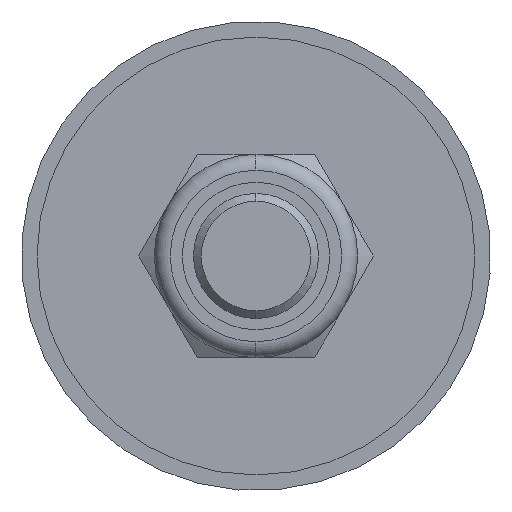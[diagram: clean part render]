
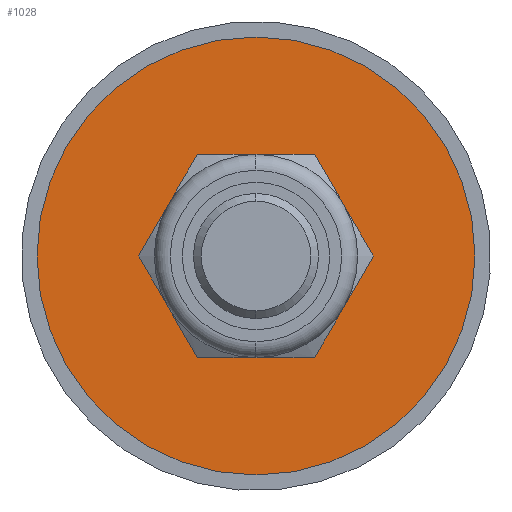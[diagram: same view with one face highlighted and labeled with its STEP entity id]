
A CAD part, left-side view. The second image highlights one B-rep face of the part: STEP entity #1028.
In plain terms, the highlighted planar face has unit normal (-1, 0, 0).
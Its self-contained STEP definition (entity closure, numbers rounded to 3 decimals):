
#980 = VERTEX_POINT ( 'NONE', #3213 ) ;
#1018 = EDGE_LOOP ( 'NONE', ( #1182, #1181 ) ) ;
#1020 = EDGE_CURVE ( 'NONE', #1277, #1271, #3253, .T. ) ;
#1028 = ADVANCED_FACE ( 'NONE', ( #3252, #3312 ), #3251, .F. ) ;
#1173 = EDGE_CURVE ( 'NONE', #980, #1179, #3469, .T. ) ;
#1179 = VERTEX_POINT ( 'NONE', #3501 ) ;
#1181 = ORIENTED_EDGE ( 'NONE', *, *, #1173, .F. ) ;
#1182 = ORIENTED_EDGE ( 'NONE', *, *, #1251, .F. ) ;
#1183 = EDGE_LOOP ( 'NONE', ( #1192, #1188 ) ) ;
#1188 = ORIENTED_EDGE ( 'NONE', *, *, #1020, .T. ) ;
#1192 = ORIENTED_EDGE ( 'NONE', *, *, #1270, .T. ) ;
#1251 = EDGE_CURVE ( 'NONE', #1179, #980, #3679, .T. ) ;
#1270 = EDGE_CURVE ( 'NONE', #1271, #1277, #3701, .T. ) ;
#1271 = VERTEX_POINT ( 'NONE', #3702 ) ;
#1277 = VERTEX_POINT ( 'NONE', #3691 ) ;
#3213 = CARTESIAN_POINT ( 'NONE',  ( -3., 0., -4.5 ) ) ;
#3248 = DIRECTION ( 'NONE',  ( 0., 0., 1. ) ) ;
#3249 = DIRECTION ( 'NONE',  ( -1., 0., 0. ) ) ;
#3250 = AXIS2_PLACEMENT_3D ( 'NONE', #3259, #3249, #3248 ) ;
#3251 = PLANE ( 'NONE',  #3309 ) ;
#3252 = FACE_BOUND ( 'NONE', #1018, .T. ) ;
#3253 = CIRCLE ( 'NONE', #3250, 14. ) ;
#3259 = CARTESIAN_POINT ( 'NONE',  ( -3., 0., 0. ) ) ;
#3260 = DIRECTION ( 'NONE',  ( 0., 0., -1. ) ) ;
#3265 = CARTESIAN_POINT ( 'NONE',  ( -3., 14., 0. ) ) ;
#3267 = DIRECTION ( 'NONE',  ( 1., 0., 0. ) ) ;
#3309 = AXIS2_PLACEMENT_3D ( 'NONE', #3265, #3267, #3260 ) ;
#3312 = FACE_OUTER_BOUND ( 'NONE', #1183, .T. ) ;
#3469 = CIRCLE ( 'NONE', #3511, 4.5 ) ;
#3501 = CARTESIAN_POINT ( 'NONE',  ( -3., 0., 4.5 ) ) ;
#3508 = DIRECTION ( 'NONE',  ( 0., 0., 1. ) ) ;
#3509 = DIRECTION ( 'NONE',  ( -1., 0., 0. ) ) ;
#3510 = CARTESIAN_POINT ( 'NONE',  ( -3., 0., 0. ) ) ;
#3511 = AXIS2_PLACEMENT_3D ( 'NONE', #3510, #3509, #3508 ) ;
#3670 = DIRECTION ( 'NONE',  ( 0., 0., 1. ) ) ;
#3671 = DIRECTION ( 'NONE',  ( -1., 0., 0. ) ) ;
#3672 = CARTESIAN_POINT ( 'NONE',  ( -3., 0., 0. ) ) ;
#3674 = AXIS2_PLACEMENT_3D ( 'NONE', #3672, #3671, #3670 ) ;
#3679 = CIRCLE ( 'NONE', #3674, 4.5 ) ;
#3691 = CARTESIAN_POINT ( 'NONE',  ( -3., 0., -14. ) ) ;
#3693 = DIRECTION ( 'NONE',  ( 0., 0., 1. ) ) ;
#3694 = DIRECTION ( 'NONE',  ( -1., 0., 0. ) ) ;
#3695 = CARTESIAN_POINT ( 'NONE',  ( -3., 0., 0. ) ) ;
#3701 = CIRCLE ( 'NONE', #3708, 14. ) ;
#3702 = CARTESIAN_POINT ( 'NONE',  ( -3., 0., 14. ) ) ;
#3708 = AXIS2_PLACEMENT_3D ( 'NONE', #3695, #3694, #3693 ) ;
